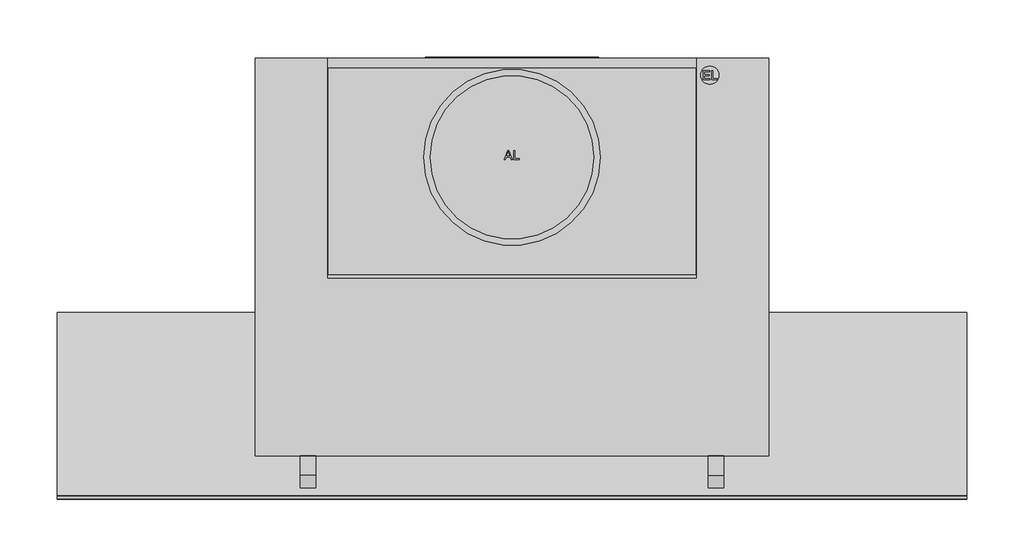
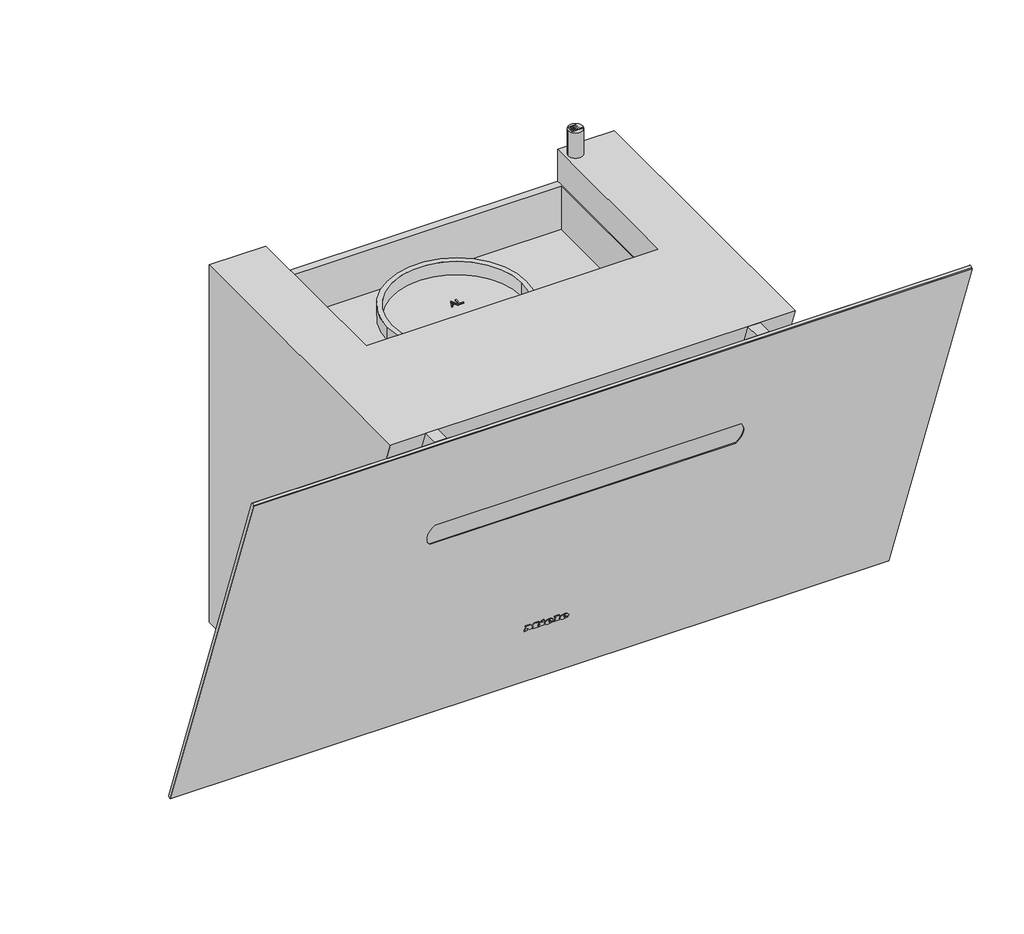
# Not in any storey: 1 proxy.
"""IFC4 building model written with IfcOpenShell, lengths in millimetres."""

from ifc_helpers import new_model, si_unit, origin, place, context, project, spatial, transform, mapped, element, save
from components import specialty_equipment_f1c80b59

model = new_model("IFC4")

# Units and contexts
model_context = context("Model", 3, world=origin())
ifc_project = project(units=[si_unit("LENGTHUNIT", "METRE", prefix="MILLI")], contexts=[model_context])

# Site, building
site = spatial("IfcSite", under=ifc_project)
building = spatial("IfcBuilding", under=site)

# Proxy
placement = place(None, origin())
specialty_equipment_shape = specialty_equipment_f1c80b59(model_context)
element("IfcBuildingElementProxy", 1, Name="12559250_NER_DAH1850_OBSW : 28H1850B_NER_12559250_DAH1850_OBSW", ObjectType="12559250_NER_DAH1850_OBSW : 28H1850B_NER_12559250_DAH1850_OBSW", at=placement, inside=building, context=model_context, shape_type="MappedRepresentation", body=[
    mapped(specialty_equipment_shape, transform((0.0, 0.0, 0.0), x_axis=(1.0, 0.0, 0.0), y_axis=(0.0, 1.0, 0.0), z_axis=(0.0, 0.0, 1.0))),
])

save(model, "model.ifc")
